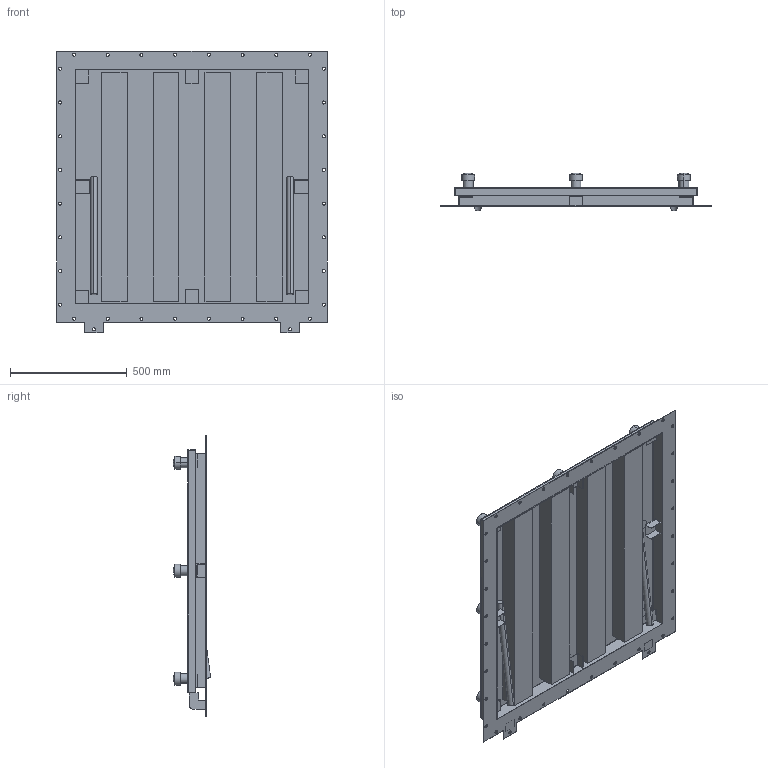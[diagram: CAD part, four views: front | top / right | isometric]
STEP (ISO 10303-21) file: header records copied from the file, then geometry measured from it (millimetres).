
FILE_DESCRIPTION((''),'2;1');
FILE_NAME('51294734','2024-05-27T12:54:32',('brma'),('HUBER SE'),'CREO PARAMETRIC BY PTC INC, 2023154','CREO PARAMETRIC BY PTC INC, 2023154','');
FILE_SCHEMA(('AUTOMOTIVE_DESIGN { 1 0 10303 214 1 1 1 1 }'));
Length unit declared in the file: millimetre
Products named in the file (1): 51294734
Bounding box: 1160 x 159.88 x 1205 mm (x, y, z)
Volume: 35691275.7 mm3; surface area: 4478046 mm2
Topology: 3 solids, 3 shells, 254 faces, 670 edges, 432 vertices
Faces by surface type: plane 132, cylinder 106, sphere 16
Entity records: 8447 total; most frequent: DIRECTION 1390, CARTESIAN_POINT 1342, ORIENTED_EDGE 1308, EDGE_CURVE 654, AXIS2_PLACEMENT_3D 482, VERTEX_POINT 432, VECTOR 426, LINE 426
